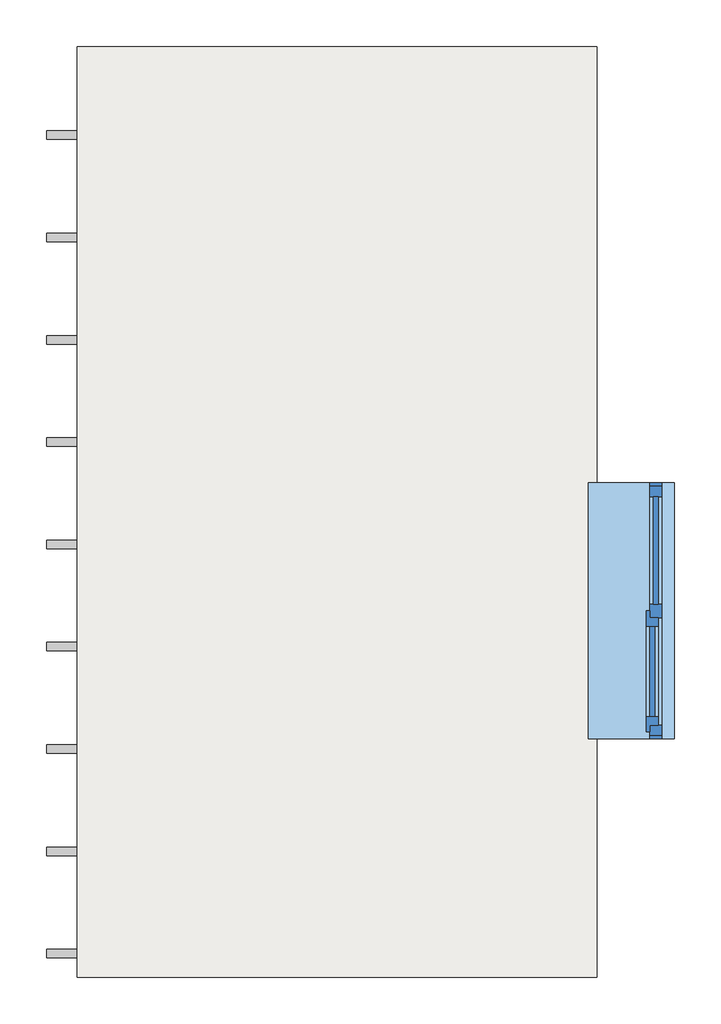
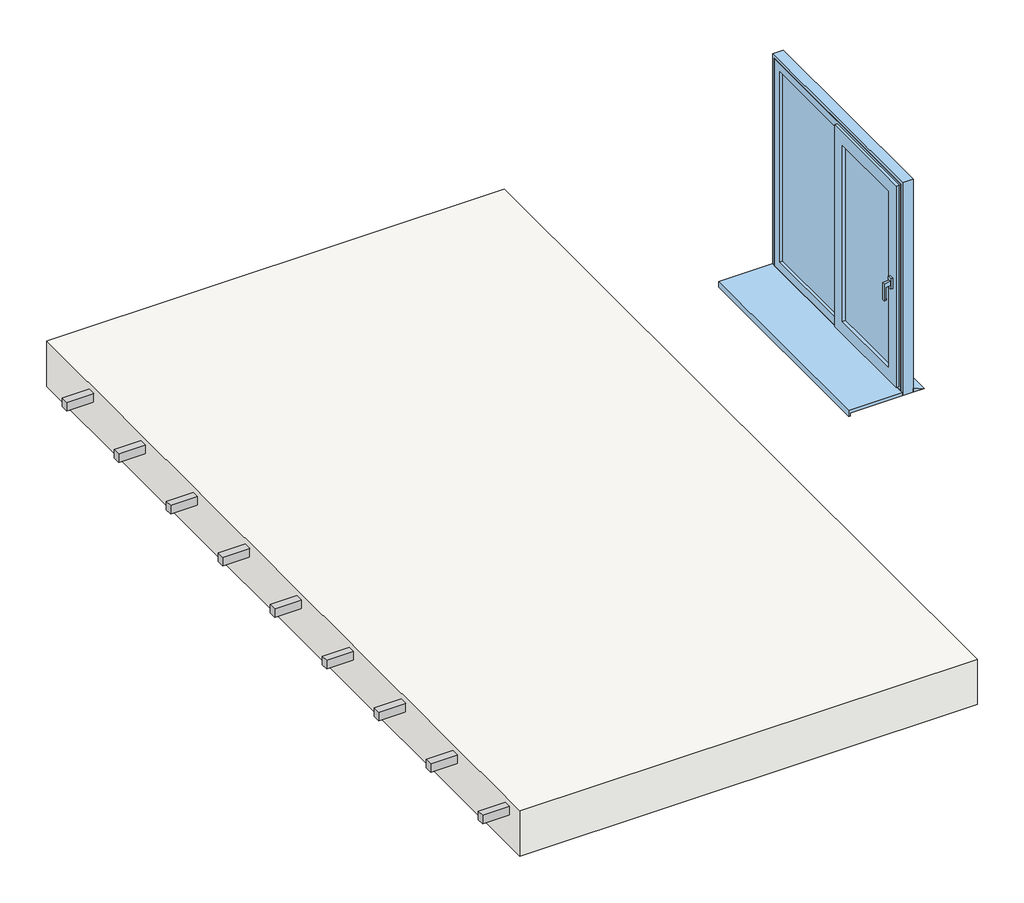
# One storey: 9 beams, 2 windows, 1 slab.
"""IFC4 building model written with IfcOpenShell, lengths in millimetres."""

from ifc_helpers import new_model, si_unit, origin, place, context, project, spatial, faceted_brep, transform, mapped, element, save
from components import beam_325fa391, window_53c761ac, window_832654c1

model = new_model("IFC4")

# Units and contexts
model_context = context("Model", 3, world=origin())
ifc_project = project(units=[si_unit("LENGTHUNIT", "METRE", prefix="MILLI")], contexts=[model_context])

# Site, building, storey
site = spatial("IfcSite", under=ifc_project)
building = spatial("IfcBuilding", under=site)
storey = spatial("IfcBuildingStorey", under=building, Name="Этаж 2", Elevation=3000.0)

# Beams
placement = place(None, origin())
beam_shape = beam_325fa391(model_context)
element("IfcBeam", 1, ObjectType="Мерные пиломатериалы : 50х60", at=placement, inside=storey, context=model_context, shape_type="MappedRepresentation", body=[
    mapped(beam_shape, transform((36792.721519, 4771.7721519, 2930.0), x_axis=(1.0, 0.0, 0.0), y_axis=(0.0, 1.0, 0.0), z_axis=(0.0, 0.0, 1.0))),
])
element("IfcBeam", 2, ObjectType="Мерные пиломатериалы : 50х60", at=placement, inside=storey, context=model_context, shape_type="MappedRepresentation", body=[
    mapped(beam_shape, transform((36792.721519, 4171.7721519, 2930.0), x_axis=(1.0, 0.0, 0.0), y_axis=(0.0, 1.0, 0.0), z_axis=(0.0, 0.0, 1.0))),
])
element("IfcBeam", 3, ObjectType="Мерные пиломатериалы : 50х60", at=placement, inside=storey, context=model_context, shape_type="MappedRepresentation", body=[
    mapped(beam_shape, transform((36792.721519, 3571.7721519, 2930.0), x_axis=(1.0, 0.0, 0.0), y_axis=(0.0, 1.0, 0.0), z_axis=(0.0, 0.0, 1.0))),
])
element("IfcBeam", 4, ObjectType="Мерные пиломатериалы : 50х60", at=placement, inside=storey, context=model_context, shape_type="MappedRepresentation", body=[
    mapped(beam_shape, transform((36792.721519, 2971.7721519, 2930.0), x_axis=(1.0, 0.0, 0.0), y_axis=(0.0, 1.0, 0.0), z_axis=(0.0, 0.0, 1.0))),
])
element("IfcBeam", 5, ObjectType="Мерные пиломатериалы : 50х60", at=placement, inside=storey, context=model_context, shape_type="MappedRepresentation", body=[
    mapped(beam_shape, transform((36792.721519, 2371.7721519, 2930.0), x_axis=(1.0, 0.0, 0.0), y_axis=(0.0, 1.0, 0.0), z_axis=(0.0, 0.0, 1.0))),
])
element("IfcBeam", 6, ObjectType="Мерные пиломатериалы : 50х60", at=placement, inside=storey, context=model_context, shape_type="MappedRepresentation", body=[
    mapped(beam_shape, transform((36792.721519, 1771.7721519, 2930.0), x_axis=(1.0, 0.0, 0.0), y_axis=(0.0, 1.0, 0.0), z_axis=(0.0, 0.0, 1.0))),
])
element("IfcBeam", 7, ObjectType="Мерные пиломатериалы : 50х60", at=placement, inside=storey, context=model_context, shape_type="MappedRepresentation", body=[
    mapped(beam_shape, transform((36792.721519, 1171.7721519, 2930.0), x_axis=(1.0, 0.0, 0.0), y_axis=(0.0, 1.0, 0.0), z_axis=(0.0, 0.0, 1.0))),
])
element("IfcBeam", 8, ObjectType="Мерные пиломатериалы : 50х60", at=placement, inside=storey, context=model_context, shape_type="MappedRepresentation", body=[
    mapped(beam_shape, transform((36792.721519, 571.7721519, 2930.0), x_axis=(1.0, 0.0, 0.0), y_axis=(0.0, 1.0, 0.0), z_axis=(0.0, 0.0, 1.0))),
])
element("IfcBeam", 9, ObjectType="Мерные пиломатериалы : 50х60", at=placement, inside=storey, context=model_context, shape_type="MappedRepresentation", body=[
    mapped(beam_shape, transform((36792.721519, -28.2278481, 2930.0), x_axis=(1.0, 0.0, 0.0), y_axis=(0.0, 1.0, 0.0), z_axis=(0.0, 0.0, 1.0))),
])

# Slab
element("IfcSlab", 10, ObjectType="Пол по деревянным лагам на бетонной плите 320мм (Изоляция ЭКОВЕР АКУСТИК 35 50мм)", at=placement, inside=storey, context=model_context, shape_type="Brep", body=[
    faceted_brep([(38417.721519, -168.2278481, 2680.0), (38397.721519, -168.2278481, 2680.0), (35367.721519, -168.2278481, 2680.0), (35367.721519, 5271.7721519, 2680.0), (35367.721519, 5291.7721519, 2680.0), (38417.721519, 5291.7721519, 2680.0), (38417.721519, 5271.7721519, 2680.0), (38417.721519, -168.2278481, 3000.0), (38417.721519, 5271.7721519, 3000.0), (38417.721519, 5291.7721519, 3000.0), (35367.721519, 5291.7721519, 3000.0), (35367.721519, 5271.7721519, 3000.0), (35367.721519, -168.2278481, 3000.0), (38397.721519, -168.2278481, 3000.0)], [[[0, 1, 2, 3, 4, 5, 6]], [[7, 8, 9, 10, 11, 12, 13]], [[2, 1, 0, 7, 13, 12]], [[4, 3, 2, 12, 11, 10]], [[5, 4, 10, 9]], [[0, 6, 5, 9, 8, 7]]]),
])

# Windows
window_shape = window_53c761ac(model_context)
element("IfcWindow", 11, ObjectType="Окно_2створки : 1460х1460 (створка и глухое)", at=placement, inside=storey, context=model_context, shape_type="MappedRepresentation", body=[
    mapped(window_shape, transform((38625.221519, 1981.7721519, 3000.0), x_axis=(0.0, -1.0, 0.0), y_axis=(1.0, 0.0, 0.0), z_axis=(0.0, 0.0, 1.0))),
])
window_2_shape = window_832654c1(model_context)
element("IfcWindow", 12, ObjectType="Окна_Подоконник : ПВХ", at=placement, inside=storey, context=model_context, shape_type="MappedRepresentation", body=[
    mapped(window_2_shape, transform((38727.721519, 1981.7721519, 3900.0), x_axis=(0.0, -1.0, 0.0), y_axis=(1.0, 0.0, 0.0), z_axis=(0.0, 0.0, 1.0))),
])

save(model, "model.ifc")
